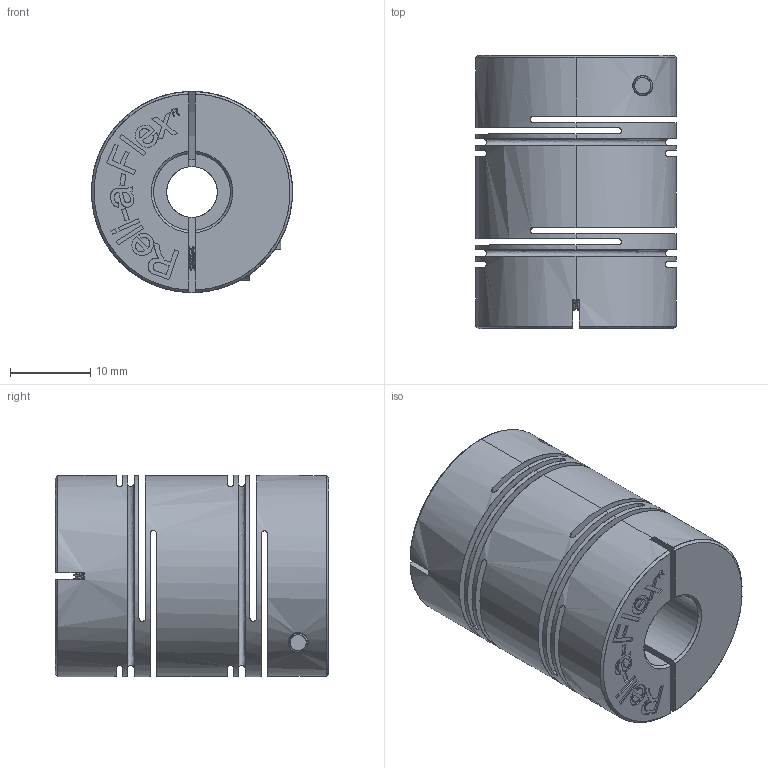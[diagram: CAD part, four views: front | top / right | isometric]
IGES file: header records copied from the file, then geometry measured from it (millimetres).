
Start section: Comment
Global section: file name: RCLA25C-0.375-6.igs; native system:  By UGS Corp.; preprocessor: XPlus GENERIC/IGES 3.0; author: Author; organization: Title; date: 20070323.111141; units: inch
Bounding box: 24.99 x 34 x 25 mm (x, y, z)
Surface area: 11233.9 mm2 (no closed solid volume)
Topology: 0 solids, 0 shells, 368 faces, 2688 edges, 2684 vertices
Faces by surface type: bspline 368
